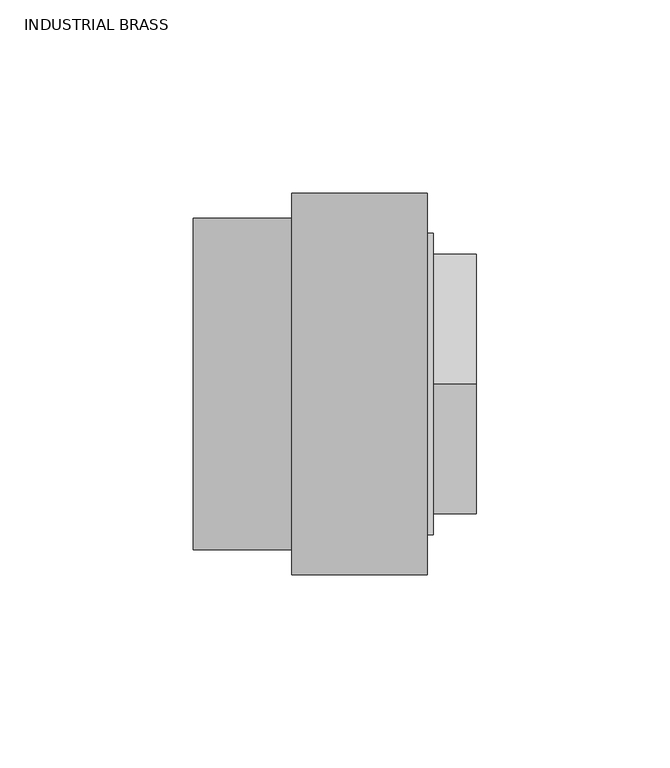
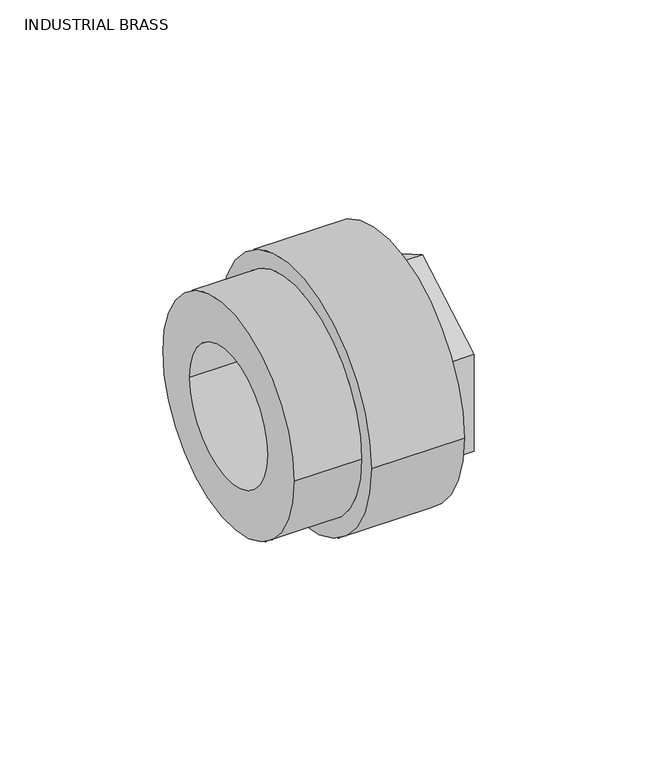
"""IFC4 building model written with IfcOpenShell, lengths in millimetres: pipe fitting geometry, Aquatherm - Flow Meter Well : INDUSTRIAL BRASS."""

from ifc_helpers import new_model, si_unit, frame, origin, place, context, project, spatial, polyline, circle_curve, source, transform, mapped, element, save
from ifc_brep_helpers import plane_surface, cylinder_surface, revolved_surface, advanced_brep


def industrial_brass_3d3250dd(model_context):
    return source(origin(), model_context, "Body", "AdvancedBrep", [
        advanced_brep(
        [(35.6235, 28.575, 0.0), (35.6235, -28.575, 0.0), (56.8563125, -28.575, 0.0), (56.8563125, 28.575, 0.0), (35.6235, 29.36875, 0.0), (35.6235, -29.36875, 0.0), (32.4485, 29.36875, 0.0), (32.4485, -29.36875, 0.0), (32.4485, 25.4, 0.0), (32.4485, -25.4, 0.0), (29.2735, 25.4, 0.0), (29.2735, -25.4, 0.0), (29.2735, 40.64, 0.0), (29.2735, -40.64, 0.0), (46.736, 40.64, 0.0), (46.736, -40.64, 0.0), (59.436, 29.36875, 0.0), (59.436, -29.36875, 0.0), (59.436, -33.528, 0.0), (59.436, -33.528, -19.3573998), (59.436, 0.0, -38.7147997), (59.436, 33.528, -19.3573998), (59.436, 33.528, 0.0), (59.436, 33.528, 19.3573998), (59.436, 0.0, 38.7147997), (59.436, -33.528, 19.3573998), (46.736, 38.989, 0.0), (46.736, -38.989, 0.0), (48.3235, 38.989, 0.0), (48.3235, -38.989, 0.0), (48.3235, 0.0, -38.7147997), (48.3235, -33.528, -19.3573998), (48.3235, -33.528, 19.3573998), (48.3235, 0.0, 38.7147997), (48.3235, 33.528, 19.3573998), (48.3235, 33.528, -19.3573998)],
        [
            (0, 1, circle_curve(frame((35.6235, 0.0, 0.0), z_axis=(-1.0, 0.0, 0.0), x_axis=(0.0, -1.0, 0.0)), 28.575)),
            (1, 2),
            (2, 3, circle_curve(frame((56.8563125, 0.0, 0.0), z_axis=(1.0, 0.0, 0.0), x_axis=(0.0, -1.0, 0.0)), 28.575)),
            (3, 0),
            (1, 0, circle_curve(frame((35.6235, 0.0, 0.0), z_axis=(-1.0, 0.0, 0.0), x_axis=(0.0, -1.0, 0.0)), 28.575)),
            (3, 2, circle_curve(frame((56.8563125, 0.0, 0.0), z_axis=(1.0, 0.0, 0.0), x_axis=(0.0, -1.0, 0.0)), 28.575)),
            (0, 4),
            (4, 5, circle_curve(frame((35.6235, 0.0, 0.0), z_axis=(-1.0, 0.0, 0.0), x_axis=(0.0, -1.0, 0.0)), 29.36875)),
            (5, 1),
            (5, 4, circle_curve(frame((35.6235, 0.0, 0.0), z_axis=(-1.0, 0.0, 0.0), x_axis=(0.0, -1.0, 0.0)), 29.36875)),
            (4, 6),
            (6, 7, circle_curve(frame((32.4485, 0.0, 0.0), z_axis=(-1.0, 0.0, 0.0), x_axis=(0.0, -1.0, 0.0)), 29.36875)),
            (7, 5),
            (7, 6, circle_curve(frame((32.4485, 0.0, 0.0), z_axis=(-1.0, 0.0, 0.0), x_axis=(0.0, -1.0, 0.0)), 29.36875)),
            (6, 8),
            (8, 9, circle_curve(frame((32.4485, 0.0, 0.0), z_axis=(-1.0, 0.0, 0.0), x_axis=(0.0, -1.0, 0.0)), 25.4)),
            (9, 7),
            (9, 8, circle_curve(frame((32.4485, 0.0, 0.0), z_axis=(-1.0, 0.0, 0.0), x_axis=(0.0, -1.0, 0.0)), 25.4)),
            (8, 10),
            (10, 11, circle_curve(frame((29.2735, 0.0, 0.0), z_axis=(-1.0, 0.0, 0.0), x_axis=(0.0, -1.0, 0.0)), 25.4)),
            (11, 9),
            (11, 10, circle_curve(frame((29.2735, 0.0, 0.0), z_axis=(-1.0, 0.0, 0.0), x_axis=(0.0, -1.0, 0.0)), 25.4)),
            (10, 12),
            (12, 13, circle_curve(frame((29.2735, 0.0, 0.0), z_axis=(-1.0, 0.0, 0.0), x_axis=(0.0, -1.0, 0.0)), 40.64)),
            (13, 11),
            (13, 12, circle_curve(frame((29.2735, 0.0, 0.0), z_axis=(-1.0, 0.0, 0.0), x_axis=(0.0, -1.0, 0.0)), 40.64)),
            (12, 14),
            (14, 15, circle_curve(frame((46.736, 0.0, 0.0), z_axis=(-1.0, 0.0, 0.0), x_axis=(0.0, -1.0, 0.0)), 40.64)),
            (15, 13),
            (15, 14, circle_curve(frame((46.736, 0.0, 0.0), z_axis=(-1.0, 0.0, 0.0), x_axis=(0.0, -1.0, 0.0)), 40.64)),
            (16, 17, circle_curve(frame((59.436, 0.0, 0.0), z_axis=(-1.0, 0.0, 0.0), x_axis=(0.0, -1.0, 0.0)), 29.36875)),
            (17, 18),
            (18, 19),
            (19, 20),
            (20, 21),
            (21, 22),
            (22, 16),
            (17, 16, circle_curve(frame((59.436, 0.0, 0.0), z_axis=(-1.0, 0.0, 0.0), x_axis=(0.0, -1.0, 0.0)), 29.36875)),
            (22, 23),
            (23, 24),
            (24, 25),
            (25, 18),
            (2, 17),
            (16, 3),
            (14, 26),
            (26, 27, circle_curve(frame((46.736, 0.0, 0.0), z_axis=(-1.0, 0.0, 0.0), x_axis=(0.0, -1.0, 0.0)), 38.989)),
            (27, 15),
            (27, 26, circle_curve(frame((46.736, 0.0, 0.0), z_axis=(-1.0, 0.0, 0.0), x_axis=(0.0, -1.0, 0.0)), 38.989)),
            (26, 28),
            (28, 29, circle_curve(frame((48.3235, 0.0, 0.0), z_axis=(-1.0, 0.0, 0.0), x_axis=(0.0, -1.0, 0.0)), 38.989)),
            (29, 27),
            (29, 28, circle_curve(frame((48.3235, 0.0, 0.0), z_axis=(-1.0, 0.0, 0.0), x_axis=(0.0, -1.0, 0.0)), 38.989)),
            (30, 31),
            (31, 32),
            (32, 33),
            (33, 34),
            (34, 35),
            (35, 30),
            (35, 21),
            (20, 30),
            (34, 23),
            (33, 24),
            (32, 25),
            (31, 19),
        ],
        [
            revolved_surface(polyline([(56.8563125, -28.575, 0.0), (35.6235, -28.575, 0.0)]), (61.2692251, 0.0, 0.0), (1.0, 0.0, 0.0)),
            plane_surface(frame((35.6235, 0.0, 0.0), z_axis=(-1.0, 0.0, 0.0), x_axis=(0.0, -1.0, 0.0))),
            revolved_surface(polyline([(35.6235, -29.36875, 0.0), (32.4485, -29.36875, 0.0)]), (61.2692251, 0.0, 0.0), (1.0, 0.0, 0.0)),
            plane_surface(frame((32.4485, 0.0, 0.0), z_axis=(1.0, 0.0, 0.0), x_axis=(0.0, -1.0, 0.0))),
            revolved_surface(polyline([(32.4485, -25.4, 0.0), (29.2735, -25.4, 0.0)]), (61.2692251, 0.0, 0.0), (1.0, 0.0, 0.0)),
            plane_surface(frame((29.2735, 0.0, 0.0), z_axis=(-1.0, 0.0, 0.0), x_axis=(0.0, -1.0, 0.0))),
            cylinder_surface(frame((61.2692251, 0.0, 0.0), z_axis=(1.0, 0.0, 0.0), x_axis=(0.0, -1.0, 0.0)), 40.64),
            plane_surface(frame((59.436, 0.0, 0.0), z_axis=(1.0, 0.0, 0.0), x_axis=(0.0, -1.0, 0.0))),
            revolved_surface(polyline([(59.436, -29.36875, 0.0), (56.8563125, -28.575, 0.0)]), (61.2692251, 0.0, 0.0), (1.0, 0.0, 0.0)),
            plane_surface(frame((46.736, 0.0, 0.0), z_axis=(1.0, 0.0, 0.0), x_axis=(0.0, -1.0, 0.0))),
            cylinder_surface(frame((61.2692251, 0.0, 0.0), z_axis=(1.0, 0.0, 0.0), x_axis=(0.0, -1.0, 0.0)), 38.989),
            plane_surface(frame((48.3235, 33.528, -19.3573998), z_axis=(1.0, 0.0, 0.0), x_axis=(0.0, 0.8660254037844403, 0.49999999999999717))),
            plane_surface(frame((48.3235, 0.0, -38.7147997), z_axis=(0.0, 0.49999999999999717, -0.8660254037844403), x_axis=(1.0, 0.0, 0.0))),
            plane_surface(frame((48.3235, 33.528, -19.3573998), z_axis=(0.0, 1.0, 0.0), x_axis=(1.0, 0.0, 0.0))),
            plane_surface(frame((48.3235, 33.528, 19.3573998), z_axis=(0.0, 0.5000000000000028, 0.8660254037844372), x_axis=(1.0, 0.0, 0.0))),
            plane_surface(frame((48.3235, 0.0, 38.7147997), z_axis=(0.0, -0.49999999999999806, 0.8660254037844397), x_axis=(1.0, 0.0, 0.0))),
            plane_surface(frame((48.3235, -33.528, 19.3573998), z_axis=(0.0, -1.0, 0.0), x_axis=(1.0, 0.0, 0.0))),
            plane_surface(frame((48.3235, -33.528, -19.3573998), z_axis=(0.0, -0.5000000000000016, -0.8660254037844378), x_axis=(1.0, 0.0, 0.0))),
        ],
        [
            (0, [[1, 2, 3, 4]]),
            (0, [[-2, 5, -4, 6]]),
            (1, [[-1, 7, 8, 9]]),
            (1, [[-5, -9, 10, -7]]),
            (2, [[-8, 11, 12, 13]]),
            (2, [[-10, -13, 14, -11]]),
            (3, [[-12, 15, 16, 17]]),
            (3, [[-14, -17, 18, -15]]),
            (4, [[-16, 19, 20, 21]]),
            (4, [[-18, -21, 22, -19]]),
            (5, [[-20, 23, 24, 25]]),
            (5, [[-22, -25, 26, -23]]),
            (6, [[-24, 27, 28, 29]]),
            (6, [[-26, -29, 30, -27]]),
            (7, [[31, 32, 33, 34, 35, 36, 37]]),
            (7, [[38, -37, 39, 40, 41, 42, -32]]),
            (8, [[-3, 43, -31, 44]]),
            (8, [[-6, -44, -38, -43]]),
            (9, [[-28, 45, 46, 47]]),
            (9, [[-30, -47, 48, -45]]),
            (10, [[-46, 49, 50, 51]]),
            (10, [[-48, -51, 52, -49]]),
            (11, [[-50, -52], [53, 54, 55, 56, 57, 58]]),
            (12, [[-58, 59, -35, 60]]),
            (13, [[-57, 61, -39, -36, -59]]),
            (14, [[-56, 62, -40, -61]]),
            (15, [[-55, 63, -41, -62]]),
            (16, [[-54, 64, -33, -42, -63]]),
            (17, [[-53, -60, -34, -64]]),
        ],
    ),
        advanced_brep(
        [(-13.7297297, 42.8625, 0.0), (-13.7297297, -42.8625, 0.0), (-13.7297297, 25.4, 0.0), (-13.7297297, -25.4, 0.0), (29.2735, 40.64, 0.0), (29.2735, -40.64, 0.0), (29.2735, 25.4, 0.0), (29.2735, -25.4, 0.0), (0.0, 42.8625, 0.0), (11.684, 42.8625, 0.0), (11.684, -42.8625, 0.0), (0.0, -42.8625, 0.0), (46.736, 49.276, 0.0), (46.736, -49.276, 0.0), (46.736, 40.64, 0.0), (46.736, -40.64, 0.0), (11.684, 49.276, 0.0), (11.684, -49.276, 0.0)],
        [
            (0, 1, circle_curve(frame((-13.7297297, 0.0, 0.0), z_axis=(-1.0, 0.0, 0.0), x_axis=(0.0, -1.0, 0.0)), 42.8625)),
            (1, 0, circle_curve(frame((-13.7297297, 0.0, 0.0), z_axis=(-1.0, 0.0, 0.0), x_axis=(0.0, -1.0, 0.0)), 42.8625)),
            (2, 3, circle_curve(frame((-13.7297297, 0.0, 0.0), z_axis=(1.0, 0.0, 0.0), x_axis=(0.0, -1.0, 0.0)), 25.4)),
            (3, 2, circle_curve(frame((-13.7297297, 0.0, 0.0), z_axis=(1.0, 0.0, 0.0), x_axis=(0.0, -1.0, 0.0)), 25.4)),
            (4, 5, circle_curve(frame((29.2735, 0.0, 0.0), z_axis=(1.0, 0.0, 0.0), x_axis=(0.0, -1.0, 0.0)), 40.64)),
            (5, 4, circle_curve(frame((29.2735, 0.0, 0.0), z_axis=(1.0, 0.0, 0.0), x_axis=(0.0, -1.0, 0.0)), 40.64)),
            (6, 7, circle_curve(frame((29.2735, 0.0, 0.0), z_axis=(-1.0, 0.0, 0.0), x_axis=(0.0, -1.0, 0.0)), 25.4)),
            (7, 6, circle_curve(frame((29.2735, 0.0, 0.0), z_axis=(-1.0, 0.0, 0.0), x_axis=(0.0, -1.0, 0.0)), 25.4)),
            (2, 6),
            (7, 3),
            (0, 8),
            (8, 9),
            (9, 10, circle_curve(frame((11.684, 0.0, 0.0), z_axis=(-1.0, 0.0, 0.0), x_axis=(0.0, -1.0, 0.0)), 42.8625)),
            (10, 11),
            (11, 1),
            (10, 9, circle_curve(frame((11.684, 0.0, 0.0), z_axis=(-1.0, 0.0, 0.0), x_axis=(0.0, -1.0, 0.0)), 42.8625)),
            (12, 13, circle_curve(frame((46.736, 0.0, 0.0), z_axis=(1.0, 0.0, 0.0), x_axis=(0.0, -1.0, 0.0)), 49.276)),
            (13, 12, circle_curve(frame((46.736, 0.0, 0.0), z_axis=(1.0, 0.0, 0.0), x_axis=(0.0, -1.0, 0.0)), 49.276)),
            (14, 15, circle_curve(frame((46.736, 0.0, 0.0), z_axis=(-1.0, 0.0, 0.0), x_axis=(0.0, -1.0, 0.0)), 40.64)),
            (15, 14, circle_curve(frame((46.736, 0.0, 0.0), z_axis=(-1.0, 0.0, 0.0), x_axis=(0.0, -1.0, 0.0)), 40.64)),
            (16, 17, circle_curve(frame((11.684, 0.0, 0.0), z_axis=(-1.0, 0.0, 0.0), x_axis=(0.0, -1.0, 0.0)), 49.276)),
            (17, 16, circle_curve(frame((11.684, 0.0, 0.0), z_axis=(-1.0, 0.0, 0.0), x_axis=(0.0, -1.0, 0.0)), 49.276)),
            (15, 5),
            (4, 14),
            (13, 17),
            (16, 12),
        ],
        [
            plane_surface(frame((-13.7297297, -25.4, 0.0), z_axis=(-1.0, 0.0, 0.0), x_axis=(0.0, 0.0, -1.0))),
            plane_surface(frame((29.2735, -25.4, 0.0), z_axis=(1.0, 0.0, 0.0), x_axis=(0.0, 0.0, 1.0))),
            revolved_surface(polyline([(29.2735, -25.4, 0.0), (-13.7297297, -25.4, 0.0)]), (29.2735, 0.0, 0.0), (1.0, 0.0, 0.0)),
            cylinder_surface(frame((0.0, 0.0, 0.0), z_axis=(-1.0, 0.0, 0.0), x_axis=(0.0, -1.0, 0.0)), 42.8625),
            plane_surface(frame((46.736, -40.64, 0.0), z_axis=(1.0, 0.0, 0.0), x_axis=(0.0, 0.0, 1.0))),
            plane_surface(frame((11.684, -40.64, 0.0), z_axis=(-1.0, 0.0, 0.0), x_axis=(0.0, 0.0, -1.0))),
            revolved_surface(polyline([(46.736, -40.64, 0.0), (29.2735, -40.64, 0.0)]), (46.736, 0.0, 0.0), (1.0, 0.0, 0.0)),
            cylinder_surface(frame((0.0, 0.0, 0.0), z_axis=(-1.0, 0.0, 0.0), x_axis=(0.0, -1.0, 0.0)), 49.276),
        ],
        [
            (0, [[1, 2], [3, 4]]),
            (1, [[5, 6], [7, 8]]),
            (2, [[-3, 9, -8, 10]]),
            (2, [[-4, -10, -7, -9]]),
            (3, [[-1, 11, 12, 13, 14, 15]]),
            (3, [[-2, -15, -14, 16, -12, -11]]),
            (4, [[17, 18], [19, 20]]),
            (5, [[21, 22], [-13, -16]]),
            (6, [[-20, 23, -5, 24]]),
            (6, [[-19, -24, -6, -23]]),
            (7, [[-18, 25, -21, 26]]),
            (7, [[-17, -26, -22, -25]]),
        ],
    ),
    ])


if __name__ == "__main__":
    model = new_model("IFC4")
    model_context = context("Model", 3, world=origin())
    ifc_project = project(units=[si_unit("LENGTHUNIT", "METRE", prefix="MILLI")], contexts=[model_context])
    site = spatial("IfcSite", under=ifc_project)
    building = spatial("IfcBuilding", under=site)
    placement = place(None, origin())
    industrial_brass_shape = industrial_brass_3d3250dd(model_context)
    element("IfcPipeFitting", 1, ObjectType="Aquatherm - Flow Meter Well : INDUSTRIAL BRASS", at=placement, inside=building, context=model_context, shape_type="MappedRepresentation", body=[
        mapped(industrial_brass_shape, transform((0.0, 0.0, 0.0), x_axis=(1.0, 0.0, 0.0), y_axis=(0.0, 1.0, 0.0), z_axis=(0.0, 0.0, 1.0))),
    ])
    save(model, "model.ifc")
